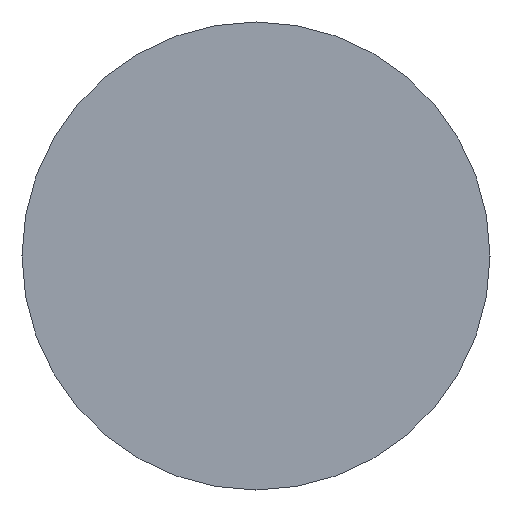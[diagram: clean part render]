
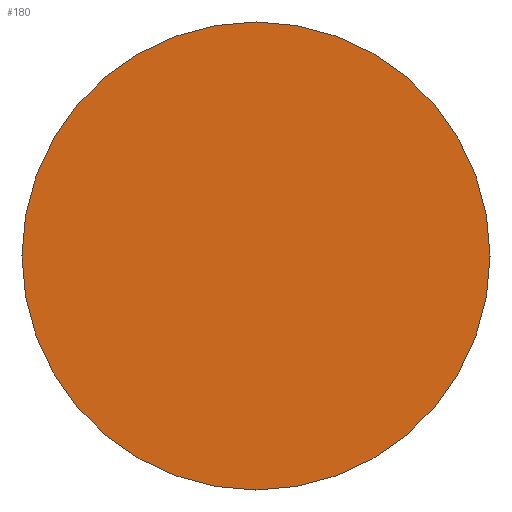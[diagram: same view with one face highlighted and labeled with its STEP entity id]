
A CAD part, left-side view. The second image highlights one B-rep face of the part: STEP entity #180.
In plain terms, the highlighted planar face has unit normal (-1, 0, 0).
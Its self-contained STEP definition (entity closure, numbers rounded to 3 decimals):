
#13 = ORIENTED_EDGE ( 'NONE', *, *, #81, .T. ) ;
#22 = VERTEX_POINT ( 'NONE', #228 ) ;
#25 = VERTEX_POINT ( 'NONE', #242 ) ;
#42 = EDGE_CURVE ( 'NONE', #25, #22, #400, .T. ) ;
#50 = ORIENTED_EDGE ( 'NONE', *, *, #42, .T. ) ;
#81 = EDGE_CURVE ( 'NONE', #22, #25, #264, .T. ) ;
#109 = EDGE_LOOP ( 'NONE', ( #50, #13 ) ) ;
#180 = ADVANCED_FACE ( 'NONE', ( #192 ), #193, .F. ) ;
#192 = FACE_OUTER_BOUND ( 'NONE', #109, .T. ) ;
#193 = PLANE ( 'NONE',  #194 ) ;
#194 = AXIS2_PLACEMENT_3D ( 'NONE', #195, #196, #199 ) ;
#195 = CARTESIAN_POINT ( 'NONE',  ( 0., 10., 0. ) ) ;
#196 = DIRECTION ( 'NONE',  ( 1., 0., 0. ) ) ;
#199 = DIRECTION ( 'NONE',  ( 0., 0., -1. ) ) ;
#228 = CARTESIAN_POINT ( 'NONE',  ( 0., 0., -10. ) ) ;
#242 = CARTESIAN_POINT ( 'NONE',  ( 0., 0., 10. ) ) ;
#264 = CIRCLE ( 'NONE', #265, 10. ) ;
#265 = AXIS2_PLACEMENT_3D ( 'NONE', #266, #267, #268 ) ;
#266 = CARTESIAN_POINT ( 'NONE',  ( 0., 0., 0. ) ) ;
#267 = DIRECTION ( 'NONE',  ( -1., 0., 0. ) ) ;
#268 = DIRECTION ( 'NONE',  ( 0., 0., 1. ) ) ;
#400 = CIRCLE ( 'NONE', #401, 10. ) ;
#401 = AXIS2_PLACEMENT_3D ( 'NONE', #402, #403, #404 ) ;
#402 = CARTESIAN_POINT ( 'NONE',  ( 0., 0., 0. ) ) ;
#403 = DIRECTION ( 'NONE',  ( -1., 0., 0. ) ) ;
#404 = DIRECTION ( 'NONE',  ( 0., 0., 1. ) ) ;
